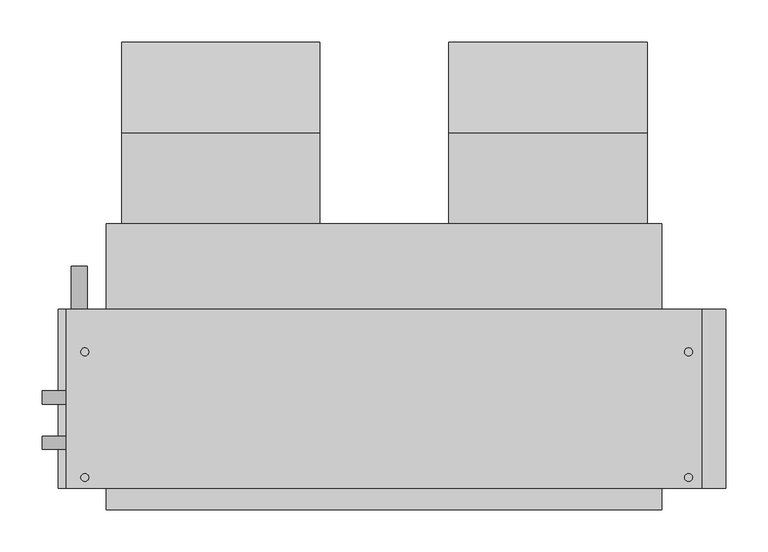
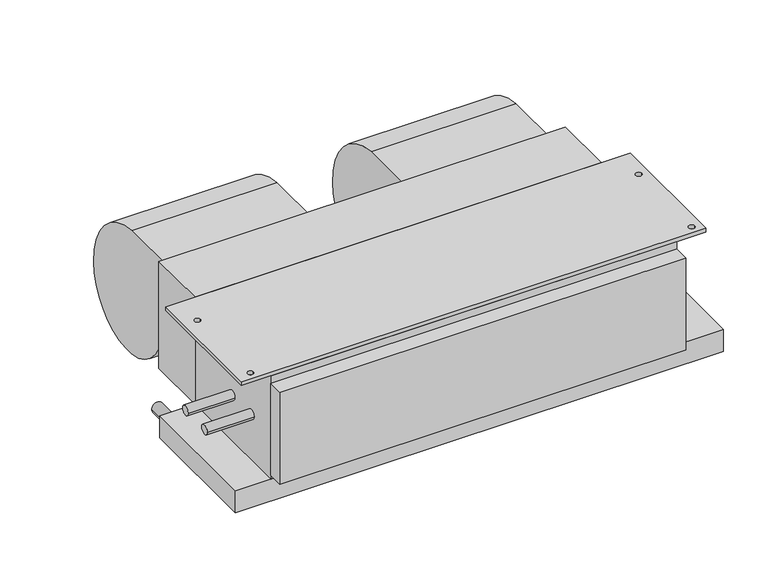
"""IFC4 building model written with IfcOpenShell, lengths in millimetres: proxy geometry, Concealed_Horizontal_Fan_Coil_Unit_-_42CAA_-_CARRIER_-_2-Pipe_Cool-EHeat_LH_2022 : Size 04 - 277v/60Hz/1Ph - 4 Row 3.0kW."""

from ifc_helpers import new_model, si_unit, point, frame, frame_2d, origin, place, context, project, spatial, polyline, circle_curve, trimmed, segment, composite_curve, outline, extrude, source, transform, mapped, element, save


def mechanical_equipment_27b90bb7(model_context):
    return source(origin(), model_context, "Body", "SweptSolid", [
        extrude(outline(composite_curve([segment(trimmed(circle_curve(frame_2d((68.401169, -136.0299844)), 117.3559541), [point((77.7875, -19.05))], [point((185.7375, -138.176))], False, "CARTESIAN"), True, "CONTINUOUS"), segment(trimmed(circle_curve(frame_2d((90.0022663, -136.4250563)), 95.7512443), [point((185.7375, -138.176))], [point((77.7875, -231.394))], False, "CARTESIAN"), True, "CONTINUOUS"), segment(trimmed(circle_curve(frame_2d((89.9711869, -136.6666968)), 95.5076133), [point((77.7875, -231.394))], [point((-5.5245, -138.176))], False, "CARTESIAN"), True, "CONTINUOUS"), segment(trimmed(circle_curve(frame_2d((-24.6059828, -138.4775816)), 19.0838659), [point((-5.5245, -138.176))], [point((-17.7963373, -120.65))], True, "CARTESIAN"), True, "CONTINUOUS"), segment(polyline([(-17.7963373, -120.65), (-30.1625, -120.65), (-30.1625, -19.05), (77.7875, -19.05)]), True, "CONTINUOUS")], self_intersect=False)), frame((229.4255, 0.0, 0.0), z_axis=(1.0, 0.0, 0.0), x_axis=(0.0, 1.0, 0.0)), (0.0, 0.0, 1.0), 235.712),
        extrude(outline(composite_curve([segment(trimmed(circle_curve(frame_2d((68.401169, -136.0299844)), 117.3559541), [point((77.7875, -19.05))], [point((185.7375, -138.176))], False, "CARTESIAN"), True, "CONTINUOUS"), segment(trimmed(circle_curve(frame_2d((90.0022663, -136.4250563)), 95.7512443), [point((185.7375, -138.176))], [point((77.7875, -231.394))], False, "CARTESIAN"), True, "CONTINUOUS"), segment(trimmed(circle_curve(frame_2d((89.9711869, -136.6666968)), 95.5076133), [point((77.7875, -231.394))], [point((-5.5245, -138.176))], False, "CARTESIAN"), True, "CONTINUOUS"), segment(trimmed(circle_curve(frame_2d((-24.6059828, -138.4775816)), 19.0838659), [point((-5.5245, -138.176))], [point((-17.7963373, -120.65))], True, "CARTESIAN"), True, "CONTINUOUS"), segment(polyline([(-17.7963373, -120.65), (-30.1625, -120.65), (-30.1625, -19.05), (77.7875, -19.05)]), True, "CONTINUOUS")], self_intersect=False)), frame((-159.512, 0.0, 0.0), z_axis=(1.0, 0.0, 0.0), x_axis=(0.0, 1.0, 0.0)), (0.0, 0.0, 1.0), 235.712),
        extrude(outline(polyline([(530.225, -131.7625), (530.225, -344.4875), (-225.425, -344.4875), (-225.425, -131.7625), (530.225, -131.7625)]), holes=[composite_curve([segment(trimmed(circle_curve(frame_2d((-203.2, -182.5625)), 4.7625), [point((-207.9625, -182.5625))], [point((-198.4375, -182.5625))], True, "CARTESIAN"), True, "CONTINUOUS"), segment(trimmed(circle_curve(frame_2d((-203.2, -182.5625)), 4.7625), [point((-198.4375, -182.5625))], [point((-207.9625, -182.5625))], True, "CARTESIAN"), True, "CONTINUOUS")], self_intersect=False), composite_curve([segment(trimmed(circle_curve(frame_2d((-203.2, -331.7875)), 4.7625), [point((-207.9625, -331.7875))], [point((-198.4375, -331.7875))], True, "CARTESIAN"), True, "CONTINUOUS"), segment(trimmed(circle_curve(frame_2d((-203.2, -331.7875)), 4.7625), [point((-198.4375, -331.7875))], [point((-207.9625, -331.7875))], True, "CARTESIAN"), True, "CONTINUOUS")], self_intersect=False), composite_curve([segment(trimmed(circle_curve(frame_2d((514.35, -182.5625)), 4.7625), [point((509.5875, -182.5625))], [point((519.1125, -182.5625))], True, "CARTESIAN"), True, "CONTINUOUS"), segment(trimmed(circle_curve(frame_2d((514.35, -182.5625)), 4.7625), [point((519.1125, -182.5625))], [point((509.5875, -182.5625))], True, "CARTESIAN"), True, "CONTINUOUS")], self_intersect=False), composite_curve([segment(trimmed(circle_curve(frame_2d((514.35, -331.7875)), 4.7625), [point((509.5875, -331.7875))], [point((519.1125, -331.7875))], True, "CARTESIAN"), True, "CONTINUOUS"), segment(trimmed(circle_curve(frame_2d((514.35, -331.7875)), 4.7625), [point((519.1125, -331.7875))], [point((509.5875, -331.7875))], True, "CARTESIAN"), True, "CONTINUOUS")], self_intersect=False)]), frame((0.0, 0.0, -6.35), z_axis=(0.0, 0.0, 1.0), x_axis=(1.0, 0.0, 0.0)), (0.0, 0.0, 1.0), 6.35),
        extrude(outline(polyline([(-177.8, -30.1625), (482.6, -30.1625), (482.6, -131.7625), (-177.8, -131.7625), (-177.8, -30.1625)])), frame((0.0, 0.0, -184.15), z_axis=(0.0, 0.0, 1.0), x_axis=(1.0, 0.0, 0.0)), (0.0, 0.0, 1.0), 184.15),
        extrude(outline(composite_curve([segment(trimmed(circle_curve(frame_2d((-209.55, -209.55)), 9.525), [point((-209.55, -219.075))], [point((-209.55, -200.025))], False, "CARTESIAN"), True, "CONTINUOUS"), segment(trimmed(circle_curve(frame_2d((-209.55, -209.55)), 9.525), [point((-209.55, -200.025))], [point((-209.55, -219.075))], False, "CARTESIAN"), True, "CONTINUOUS")], self_intersect=False)), frame((0.0, -131.7625, 0.0), z_axis=(0.0, 1.0, 0.0), x_axis=(0.0, 0.0, 1.0)), (0.0, 0.0, 1.0), 50.8),
        extrude(outline(polyline([(482.6, -369.8875), (-177.8, -369.8875), (-177.8, -344.4875), (482.6, -344.4875), (482.6, -369.8875)])), frame((0.0, 0.0, -177.8), z_axis=(0.0, 0.0, 1.0), x_axis=(1.0, 0.0, 0.0)), (0.0, 0.0, 1.0), 158.75),
        extrude(outline(polyline([(558.8, -131.7625), (558.8, -344.4875), (-234.95, -344.4875), (-234.95, -131.7625), (558.8, -131.7625)])), frame((0.0, 0.0, -222.25), z_axis=(0.0, 0.0, 1.0), x_axis=(1.0, 0.0, 0.0)), (0.0, 0.0, 1.0), 38.1),
        extrude(outline(composite_curve([segment(trimmed(circle_curve(frame_2d((-290.5125, -104.775)), 7.9375), [point((-282.575, -104.775))], [point((-298.45, -104.775))], False, "CARTESIAN"), True, "CONTINUOUS"), segment(trimmed(circle_curve(frame_2d((-290.5125, -104.775)), 7.9375), [point((-298.45, -104.775))], [point((-282.575, -104.775))], False, "CARTESIAN"), True, "CONTINUOUS")], self_intersect=False)), frame((-254.0, 0.0, 0.0), z_axis=(1.0, 0.0, 0.0), x_axis=(0.0, 1.0, 0.0)), (0.0, 0.0, 1.0), 76.2),
        extrude(outline(composite_curve([segment(trimmed(circle_curve(frame_2d((-236.5375, -104.775)), 7.9375), [point((-228.6, -104.775))], [point((-244.475, -104.775))], False, "CARTESIAN"), True, "CONTINUOUS"), segment(trimmed(circle_curve(frame_2d((-236.5375, -104.775)), 7.9375), [point((-244.475, -104.775))], [point((-228.6, -104.775))], False, "CARTESIAN"), True, "CONTINUOUS")], self_intersect=False)), frame((-254.0, 0.0, 0.0), z_axis=(1.0, 0.0, 0.0), x_axis=(0.0, 1.0, 0.0)), (0.0, 0.0, 1.0), 76.2),
        extrude(outline(polyline([(482.6, -344.4875), (-177.8, -344.4875), (-177.8, -131.7625), (482.6, -131.7625), (482.6, -344.4875)])), frame((0.0, 0.0, -184.15), z_axis=(0.0, 0.0, 1.0), x_axis=(1.0, 0.0, 0.0)), (0.0, 0.0, 1.0), 177.8),
    ])


if __name__ == "__main__":
    model = new_model("IFC4")
    model_context = context("Model", 3, world=origin())
    ifc_project = project(units=[si_unit("LENGTHUNIT", "METRE", prefix="MILLI")], contexts=[model_context])
    site = spatial("IfcSite", under=ifc_project)
    building = spatial("IfcBuilding", under=site)
    placement = place(None, origin())
    mechanical_equipment_shape = mechanical_equipment_27b90bb7(model_context)
    element("IfcBuildingElementProxy", 1, Name="Concealed_Horizontal_Fan_Coil_Unit_-_42CAA_-_CARRIER_-_2-Pipe_Cool-EHeat_LH_2022 : Size 04 - 277v/60Hz/1Ph - 4 Row 3.0kW", ObjectType="Concealed_Horizontal_Fan_Coil_Unit_-_42CAA_-_CARRIER_-_2-Pipe_Cool-EHeat_LH_2022 : Size 04 - 277v/60Hz/1Ph - 4 Row 3.0kW", at=placement, inside=building, context=model_context, shape_type="MappedRepresentation", body=[
        mapped(mechanical_equipment_shape, transform((0.0, 0.0, 0.0), x_axis=(1.0, 0.0, 0.0), y_axis=(0.0, 1.0, 0.0), z_axis=(0.0, 0.0, 1.0))),
    ])
    save(model, "model.ifc")
